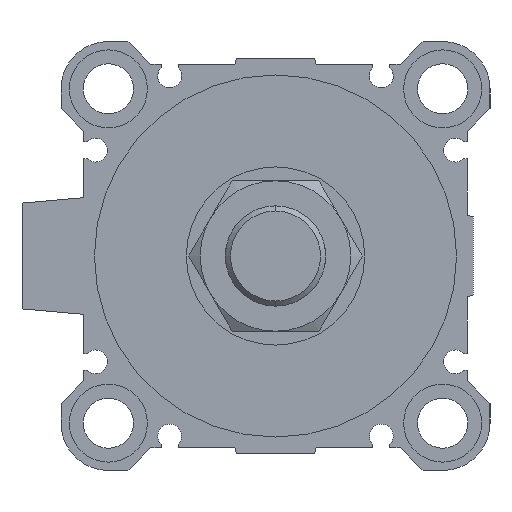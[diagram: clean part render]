
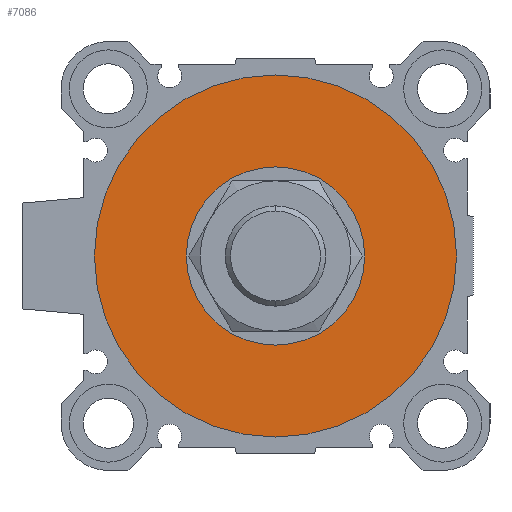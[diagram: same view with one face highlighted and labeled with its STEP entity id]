
A CAD part, left-side view. The second image highlights one B-rep face of the part: STEP entity #7086.
In plain terms, the highlighted planar face has unit normal (-1, 0, 0).
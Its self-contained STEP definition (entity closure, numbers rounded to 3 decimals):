
#512 = VERTEX_POINT ( 'NONE', #3643 ) ;
#732 = DIRECTION ( 'NONE',  ( 1., 0., 0. ) ) ;
#1057 = AXIS2_PLACEMENT_3D ( 'NONE', #6056, #3207, #6088 ) ;
#1068 = AXIS2_PLACEMENT_3D ( 'NONE', #2526, #1410, #1380 ) ;
#1086 = VERTEX_POINT ( 'NONE', #6265 ) ;
#1106 = FACE_BOUND ( 'NONE', #1793, .T. ) ;
#1224 = PLANE ( 'NONE',  #2774 ) ;
#1249 = EDGE_CURVE ( 'NONE', #512, #1086, #1741, .T. ) ;
#1380 = DIRECTION ( 'NONE',  ( 0., 0., -1. ) ) ;
#1410 = DIRECTION ( 'NONE',  ( 1., 0., 0. ) ) ;
#1741 = CIRCLE ( 'NONE', #1992, 32.5 ) ;
#1793 = EDGE_LOOP ( 'NONE', ( #5028, #6788 ) ) ;
#1873 = FACE_OUTER_BOUND ( 'NONE', #7071, .T. ) ;
#1992 = AXIS2_PLACEMENT_3D ( 'NONE', #2294, #4612, #5888 ) ;
#2128 = CARTESIAN_POINT ( 'NONE',  ( 4., 0., 0. ) ) ;
#2252 = ORIENTED_EDGE ( 'NONE', *, *, #1249, .F. ) ;
#2294 = CARTESIAN_POINT ( 'NONE',  ( 4., 0., 0. ) ) ;
#2526 = CARTESIAN_POINT ( 'NONE',  ( 4., 0., 0. ) ) ;
#2774 = AXIS2_PLACEMENT_3D ( 'NONE', #6383, #7523, #4080 ) ;
#2982 = EDGE_CURVE ( 'NONE', #3686, #5436, #3508, .T. ) ;
#3207 = DIRECTION ( 'NONE',  ( 1., 0., 0. ) ) ;
#3508 = CIRCLE ( 'NONE', #1068, 16. ) ;
#3643 = CARTESIAN_POINT ( 'NONE',  ( 4., 0., -32.5 ) ) ;
#3686 = VERTEX_POINT ( 'NONE', #5373 ) ;
#4080 = DIRECTION ( 'NONE',  ( 0., 1., 0. ) ) ;
#4612 = DIRECTION ( 'NONE',  ( 1., 0., 0. ) ) ;
#4795 = CARTESIAN_POINT ( 'NONE',  ( 4., 0., -16. ) ) ;
#5028 = ORIENTED_EDGE ( 'NONE', *, *, #2982, .T. ) ;
#5235 = EDGE_CURVE ( 'NONE', #5436, #3686, #7323, .T. ) ;
#5373 = CARTESIAN_POINT ( 'NONE',  ( 4., 0., 16. ) ) ;
#5436 = VERTEX_POINT ( 'NONE', #4795 ) ;
#5888 = DIRECTION ( 'NONE',  ( 0., 0., -1. ) ) ;
#5941 = CIRCLE ( 'NONE', #1057, 32.5 ) ;
#6056 = CARTESIAN_POINT ( 'NONE',  ( 4., 0., 0. ) ) ;
#6088 = DIRECTION ( 'NONE',  ( 0., 0., -1. ) ) ;
#6265 = CARTESIAN_POINT ( 'NONE',  ( 4., 0., 32.5 ) ) ;
#6383 = CARTESIAN_POINT ( 'NONE',  ( 4., 0., 0. ) ) ;
#6521 = EDGE_CURVE ( 'NONE', #1086, #512, #5941, .T. ) ;
#6583 = DIRECTION ( 'NONE',  ( 0., 0., -1. ) ) ;
#6659 = ORIENTED_EDGE ( 'NONE', *, *, #6521, .F. ) ;
#6788 = ORIENTED_EDGE ( 'NONE', *, *, #5235, .T. ) ;
#7071 = EDGE_LOOP ( 'NONE', ( #6659, #2252 ) ) ;
#7086 = ADVANCED_FACE ( 'NONE', ( #1873, #1106 ), #1224, .F. ) ;
#7323 = CIRCLE ( 'NONE', #7575, 16. ) ;
#7523 = DIRECTION ( 'NONE',  ( 1., 0., 0. ) ) ;
#7575 = AXIS2_PLACEMENT_3D ( 'NONE', #2128, #732, #6583 ) ;
